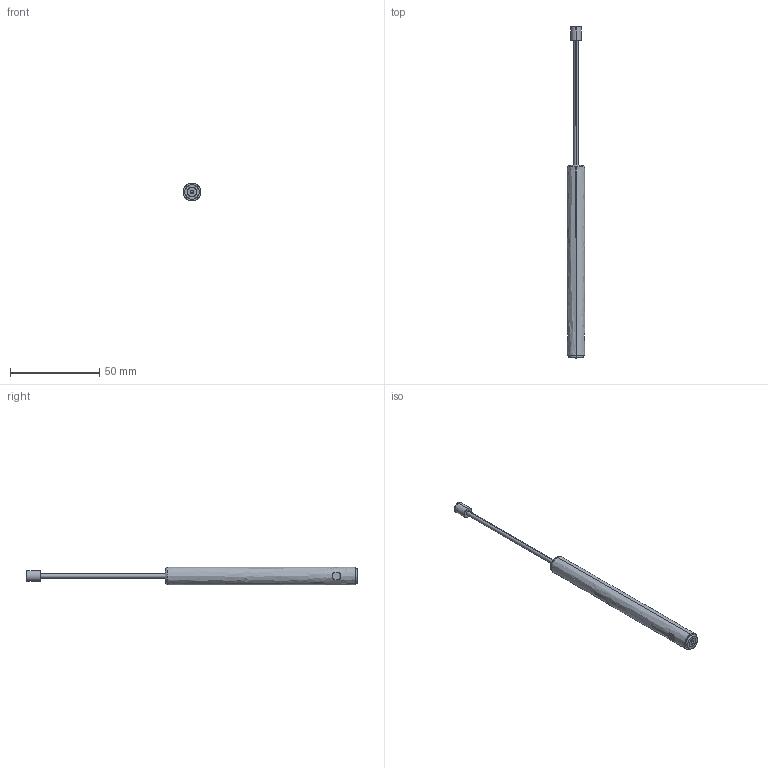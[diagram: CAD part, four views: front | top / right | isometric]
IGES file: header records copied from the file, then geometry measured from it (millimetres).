
Start section: SolidWorks IGES file using analytic representation for surfaces
Bounding box: 10 x 186 x 10 mm (x, y, z)
Surface area: 4577.3 mm2 (no closed solid volume)
Topology: 0 solids, 0 shells, 62 faces, 762 edges, 760 vertices
Faces by surface type: bspline 39, revolution 23
